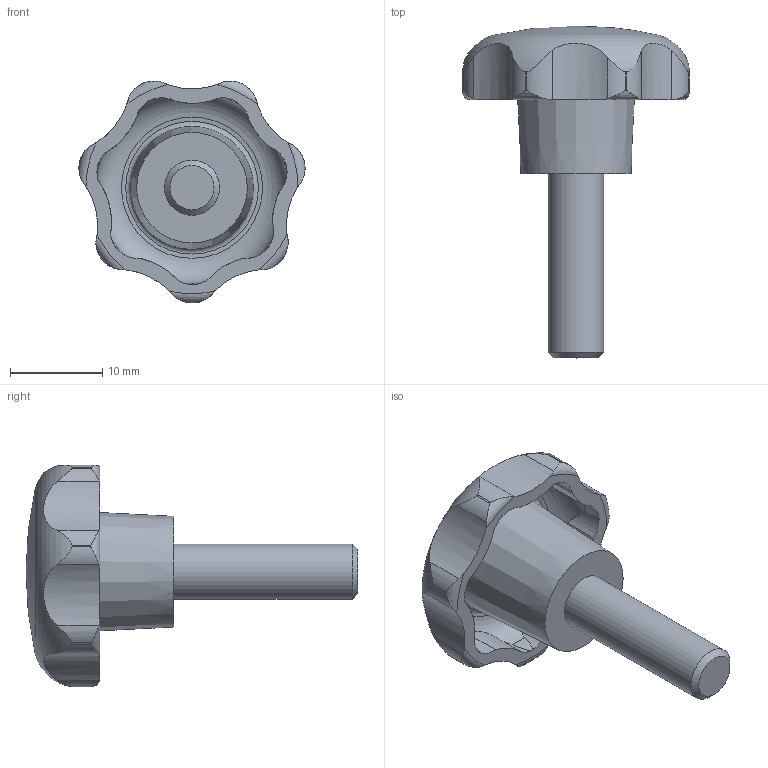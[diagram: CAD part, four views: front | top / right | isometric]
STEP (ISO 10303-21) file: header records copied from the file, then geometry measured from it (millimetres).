
FILE_DESCRIPTION( ( 'STEP AP203' ), '1' );
FILE_NAME( 'C:/Temp/Ganter_Step_05_03_2020/data/2_2/gn_6336_4/gn_6336_4_st/Star knob GN 6336.4-ST-25-M6-20.stp', '2020-03-05T12:07:16', ( 'License CC BY-ND 4.0' ), ( 'CADENAS' ), ' ', 'PARTsolutions', ' ' );
FILE_SCHEMA( ( 'CONFIG_CONTROL_DESIGN' ) );
Length unit declared in the file: millimetre
Products named in the file (1): _Star knob GN 6336.4-ST-25-M6-20
Bounding box: 24.52 x 36 x 24.06 mm (x, y, z)
Volume: 3690.7 mm3; surface area: 2389.8 mm2
Topology: 1 solids, 1 shells, 74 faces, 209 edges, 138 vertices
Faces by surface type: cylinder 50, torus 10, cone 10, plane 3, sphere 1
Full cylindrical faces by diameter (mm): 6 x1
Entity records: 3129 total; most frequent: CARTESIAN_POINT 1317, ORIENTED_EDGE 394, DIRECTION 336, EDGE_CURVE 197, AXIS2_PLACEMENT_3D 147, VERTEX_POINT 135, EDGE_LOOP 83, B_SPLINE_CURVE_WITH_KNOTS 83
